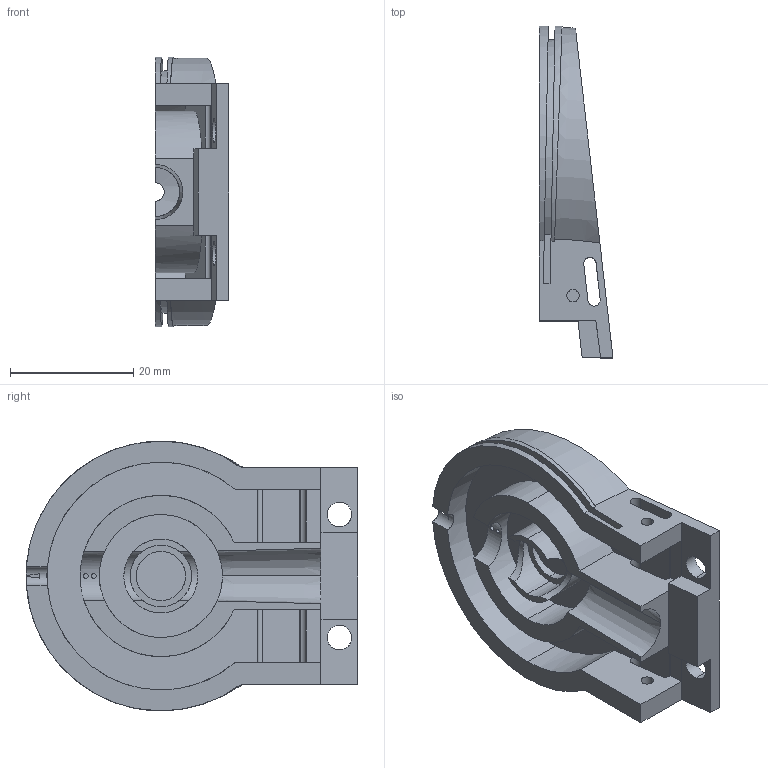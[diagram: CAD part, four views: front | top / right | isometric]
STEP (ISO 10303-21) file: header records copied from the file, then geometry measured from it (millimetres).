
FILE_DESCRIPTION(('STEP AP214'),'1');
FILE_NAME('C:/Users/mashimo/Documents/円弧動エンジン/ボア4.4ｃｍ/TurboCAD/3D/tmp0.STEP','2023-12-27T10:18:01',(' '),(' '),'Spatial InterOp 3D',' ',' ');
FILE_SCHEMA(('automotive_design'));
Length unit declared in the file: millimetre
Products named in the file (1): 1
Bounding box: 12 x 53.89 x 43.8 mm (x, y, z)
Volume: 8213 mm3; surface area: 8135.4 mm2
Topology: 1 solids, 1 shells, 89 faces, 267 edges, 179 vertices
Faces by surface type: plane 43, cylinder 38, torus 6, cone 2
Entity records: 4712 total; most frequent: CARTESIAN_POINT 1476, ORIENTED_EDGE 534, DIRECTION 529, EDGE_CURVE 267, AXIS2_PLACEMENT_3D 195, VERTEX_POINT 179, LINE 139, VECTOR 139
